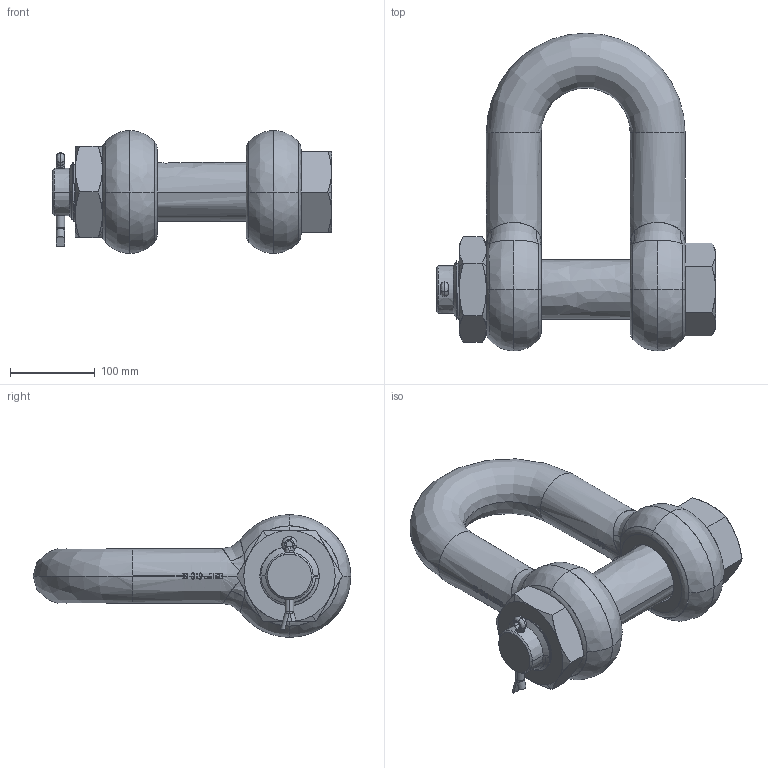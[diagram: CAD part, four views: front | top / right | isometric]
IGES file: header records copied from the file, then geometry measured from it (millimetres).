
Start section: START RECORD GO HERE.
Global section: file name: 55.igs; native system: Solidworks 2009      A Version 5 Release 17 ; preprocessor: Solidworks                 ; author: v.b.; organization: P4; date: 20090807.083905; units: millimetre
Bounding box: 330 x 375.5 x 145 mm (x, y, z)
Surface area: 351870.3 mm2 (no closed solid volume)
Topology: 0 solids, 0 shells, 812 faces, 5838 edges, 5830 vertices
Faces by surface type: bspline 355, plane 290, revolution 167
